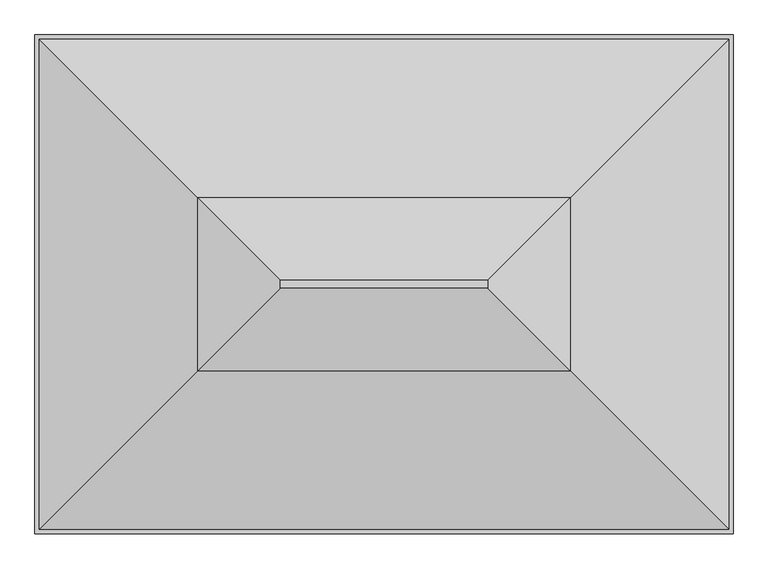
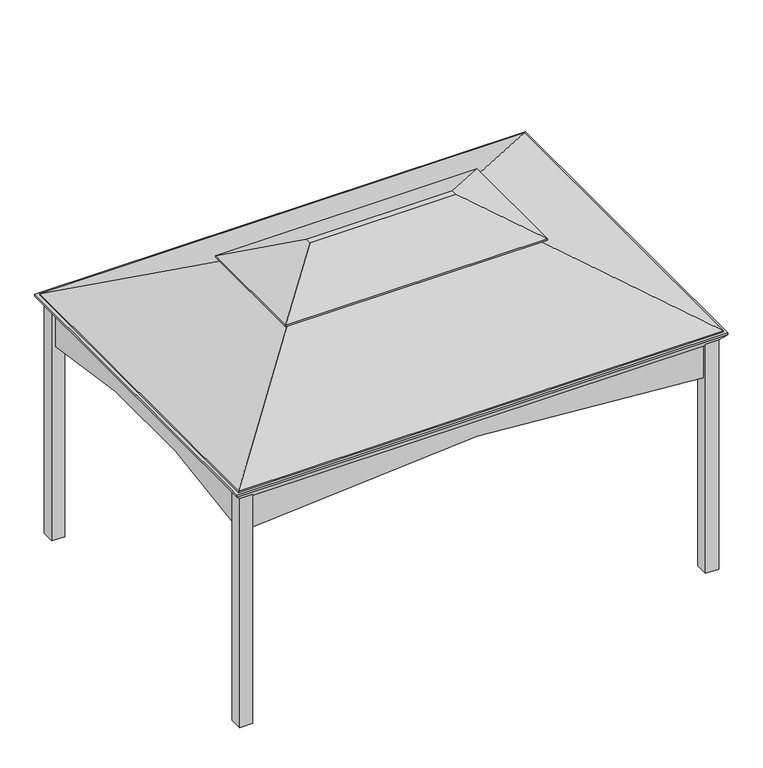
"""IFC4 building model written with IfcOpenShell, lengths in millimetres: proxy geometry."""

from ifc_helpers import new_model, si_unit, point, frame, frame_2d, origin, place, context, project, spatial, polyline, circle_curve, trimmed, segment, composite_curve, outline, extrude, faceted_brep, source, transform, mapped, element, save


def generic_models_7251365c(model_context):
    return source(origin(), model_context, "Body", "SolidModel", [
        extrude(outline(composite_curve([segment(polyline([(2082.8, -1968.5), (1778.0, -1968.5)]), True, "CONTINUOUS"), segment(trimmed(circle_curve(frame_2d((-10859.0291667, 0.0)), 12789.4291667), [point((1778.0, -1968.5))], [point((1778.0, 1968.5))], True, "CARTESIAN"), True, "CONTINUOUS"), segment(polyline([(1778.0, 1968.5), (2082.8, 1968.5), (2082.8, -1968.5)]), True, "CONTINUOUS")], self_intersect=False)), frame((0.0, -1441.45, 0.0), z_axis=(0.0, 1.0, 0.0), x_axis=(0.0, 0.0, 1.0)), (0.0, 0.0, 1.0), 25.4),
        extrude(outline(composite_curve([segment(polyline([(2082.8, -1968.5), (1778.0, -1968.5)]), True, "CONTINUOUS"), segment(trimmed(circle_curve(frame_2d((-10859.0291667, 0.0)), 12789.4291667), [point((1778.0, -1968.5))], [point((1778.0, 1968.5))], True, "CARTESIAN"), True, "CONTINUOUS"), segment(polyline([(1778.0, 1968.5), (2082.8, 1968.5), (2082.8, -1968.5)]), True, "CONTINUOUS")], self_intersect=False)), frame((0.0, 1416.05, 0.0), z_axis=(0.0, 1.0, 0.0), x_axis=(0.0, 0.0, 1.0)), (0.0, 0.0, 1.0), 25.4),
        extrude(outline(composite_curve([segment(polyline([(1358.9, 2082.8), (1358.9, 1778.0)]), True, "CONTINUOUS"), segment(trimmed(circle_curve(frame_2d((0.0, -4204.2291667)), 6134.6291667), [point((1358.9, 1778.0))], [point((-1358.9, 1778.0))], True, "CARTESIAN"), True, "CONTINUOUS"), segment(polyline([(-1358.9, 1778.0), (-1358.9, 2082.8), (1358.9, 2082.8)]), True, "CONTINUOUS")], self_intersect=False)), frame((2025.65, 0.0, 0.0), z_axis=(1.0, 0.0, 0.0), x_axis=(0.0, 1.0, 0.0)), (0.0, 0.0, 1.0), 25.4),
        extrude(outline(composite_curve([segment(polyline([(1358.9, 2082.8), (1358.9, 1778.0)]), True, "CONTINUOUS"), segment(trimmed(circle_curve(frame_2d((0.0, -4204.2291667)), 6134.6291667), [point((1358.9, 1778.0))], [point((-1358.9, 1778.0))], True, "CARTESIAN"), True, "CONTINUOUS"), segment(polyline([(-1358.9, 1778.0), (-1358.9, 2082.8), (1358.9, 2082.8)]), True, "CONTINUOUS")], self_intersect=False)), frame((-2051.05, 0.0, 0.0), z_axis=(1.0, 0.0, 0.0), x_axis=(0.0, 1.0, 0.0)), (0.0, 0.0, 1.0), 25.4),
        faceted_brep([(2133.6, -1524.0, 2184.4), (2133.6, 1524.0, 2184.4), (-2133.6, 1524.0, 2184.4), (-2133.6, -1524.0, 2184.4), (1968.5, 1358.9, 2184.4), (2025.65, 1358.9, 2184.4), (2025.65, -1358.9, 2184.4), (1968.5, -1358.9, 2184.4), (1968.5, -1416.05, 2184.4), (-1968.5, -1416.05, 2184.4), (-1968.5, -1358.9, 2184.4), (-2025.65, -1358.9, 2184.4), (-2025.65, 1358.9, 2184.4), (-1968.5, 1358.9, 2184.4), (-1968.5, 1416.05, 2184.4), (1968.5, 1416.05, 2184.4), (1968.5, 1358.9, 0.0), (1968.5, 1473.2, 0.0), (2082.8, 1473.2, 0.0), (2082.8, 1358.9, 0.0), (2082.8, 1358.9, 2105.3136364), (2063.75, 1358.9, 2082.8), (2025.65, 1358.9, 2082.8), (2082.8, 1473.2, 2105.3136364), (1968.5, 1473.2, 2105.3136364), (1968.5, 1416.05, 2082.8), (1968.5, 1454.15, 2082.8), (2063.75, -1358.9, 2082.8), (2025.65, -1358.9, 2082.8), (-1968.5, 1416.05, 2082.8), (-1968.5, 1454.15, 2082.8), (1968.5, -1416.05, 2082.8), (1968.5, -1454.15, 2082.8), (-1968.5, -1454.15, 2082.8), (-1968.5, -1416.05, 2082.8), (-2025.65, -1358.9, 2082.8), (-2063.75, -1358.9, 2082.8), (-2063.75, 1358.9, 2082.8), (-2025.65, 1358.9, 2082.8), (2133.6, 1524.0, 2165.35), (2133.6, -1524.0, 2165.35), (-2133.6, -1524.0, 2165.35), (-2133.6, 1524.0, 2165.35), (2082.8, -1358.9, 0.0), (2082.8, -1473.2, 0.0), (1968.5, -1473.2, 0.0), (1968.5, -1358.9, 0.0), (2082.8, -1358.9, 2105.3136364), (1968.5, -1473.2, 2105.3136364), (2082.8, -1473.2, 2105.3136364), (-1968.5, -1358.9, 0.0), (-1968.5, -1473.2, 0.0), (-2082.8, -1473.2, 0.0), (-2082.8, -1358.9, 0.0), (-2082.8, -1358.9, 2105.3136364), (-2082.8, -1473.2, 2105.3136364), (-1968.5, -1473.2, 2105.3136364), (-2082.8, 1358.9, 0.0), (-2082.8, 1473.2, 0.0), (-1968.5, 1473.2, 0.0), (-1968.5, 1358.9, 0.0), (-2082.8, 1358.9, 2105.3136364), (-1968.5, 1473.2, 2105.3136364), (-2082.8, 1473.2, 2105.3136364)], [[[0, 1, 2, 3], [4, 5, 6, 7, 8, 9, 10, 11, 12, 13, 14, 15]], [[16, 17, 18, 19]], [[16, 19, 20, 21, 22, 5, 4]], [[19, 18, 23, 20]], [[18, 17, 24, 23]], [[17, 16, 4, 15, 25, 26, 24]], [[22, 21, 27, 28]], [[26, 25, 29, 30]], [[31, 32, 33, 34]], [[35, 36, 37, 38]], [[25, 15, 14, 29]], [[39, 1, 0, 40]], [[40, 0, 3, 41]], [[41, 3, 2, 42]], [[1, 39, 42, 2]], [[43, 44, 45, 46]], [[43, 46, 7, 6, 28, 27, 47]], [[46, 45, 48, 32, 31, 8, 7]], [[45, 44, 49, 48]], [[44, 43, 47, 49]], [[50, 51, 52, 53]], [[50, 53, 54, 36, 35, 11, 10]], [[53, 52, 55, 54]], [[52, 51, 56, 55]], [[51, 50, 10, 9, 34, 33, 56]], [[57, 58, 59, 60]], [[57, 60, 13, 12, 38, 37, 61]], [[60, 59, 62, 30, 29, 14, 13]], [[59, 58, 63, 62]], [[58, 57, 61, 63]], [[5, 22, 28, 6]], [[8, 31, 34, 9]], [[11, 35, 38, 12]], [[39, 40, 49, 47, 27, 21, 20, 23]], [[40, 41, 55, 56, 33, 32, 48, 49]], [[41, 42, 63, 61, 37, 36, 54, 55]], [[42, 39, 23, 24, 26, 30, 62, 63]]]),
        faceted_brep([(634.9941406, 25.3941406, 3073.4), (-634.9941406, 25.3941406, 3073.4), (-634.9941406, -25.3941406, 3073.4), (634.9941406, -25.3941406, 3073.4), (-1137.9141406, 528.3141406, 2794.0), (-1137.9141406, -528.3141406, 2794.0), (1137.9141406, -528.3141406, 2794.0), (1137.9141406, 528.3141406, 2794.0), (1137.9141406, 528.3141406, 2781.3), (1137.9141406, -528.3141406, 2781.3), (-1137.9141406, -528.3141406, 2781.3), (-1137.9141406, 528.3141406, 2781.3), (634.9941406, 25.3941406, 3060.7), (634.9941406, -25.3941406, 3060.7), (-634.9941406, -25.3941406, 3060.7), (-634.9941406, 25.3941406, 3060.7)], [[[0, 1, 2, 3]], [[2, 1, 4, 5]], [[0, 3, 6, 7]], [[8, 7, 6, 9]], [[9, 6, 5, 10]], [[10, 5, 4, 11]], [[7, 8, 11, 4]], [[12, 13, 14, 15]], [[15, 14, 10, 11]], [[13, 12, 8, 9]], [[1, 0, 7, 4]], [[3, 2, 5, 6]], [[12, 15, 11, 8]], [[14, 13, 9, 10]]]),
        faceted_brep([(-2108.1941406, 1498.5941406, 2197.1), (-1010.9141406, 401.3141406, 2806.7), (1010.9141406, 401.3141406, 2806.7), (2108.1941406, 1498.5941406, 2197.1), (-2108.1941406, -1498.5941406, 2197.1), (-1010.9141406, -401.3141406, 2806.7), (2108.1941406, -1498.5941406, 2197.1), (1010.9141406, -401.3141406, 2806.7), (2108.1941406, 1498.5941406, 2184.4), (2108.1941406, -1498.5941406, 2184.4), (-2108.1941406, -1498.5941406, 2184.4), (-2108.1941406, 1498.5941406, 2184.4), (1010.9141406, 401.3141406, 2794.0), (-1010.9141406, 401.3141406, 2794.0), (-1010.9141406, -401.3141406, 2794.0), (1010.9141406, -401.3141406, 2794.0)], [[[0, 1, 2, 3]], [[1, 0, 4, 5]], [[5, 4, 6, 7]], [[3, 2, 7, 6]], [[8, 3, 6, 9]], [[9, 6, 4, 10]], [[10, 4, 0, 11]], [[3, 8, 11, 0]], [[8, 12, 13, 11]], [[11, 13, 14, 10]], [[10, 14, 15, 9]], [[12, 8, 9, 15]], [[7, 2, 12, 15]], [[5, 7, 15, 14]], [[1, 5, 14, 13]], [[2, 1, 13, 12]]]),
    ])


if __name__ == "__main__":
    model = new_model("IFC4")
    model_context = context("Model", 3, world=origin())
    ifc_project = project(units=[si_unit("LENGTHUNIT", "METRE", prefix="MILLI")], contexts=[model_context])
    site = spatial("IfcSite", under=ifc_project)
    building = spatial("IfcBuilding", under=site)
    placement = place(None, origin())
    generic_models_shape = generic_models_7251365c(model_context)
    element("IfcBuildingElementProxy", 1, Name="Gazebo : 14'-0\" x 10'-0\" (Arches)", ObjectType="Gazebo : 14'-0\" x 10'-0\" (Arches)", at=placement, inside=building, context=model_context, shape_type="MappedRepresentation", body=[
        mapped(generic_models_shape, transform((0.0, 0.0, 0.0), x_axis=(1.0, 0.0, 0.0), y_axis=(0.0, 1.0, 0.0), z_axis=(0.0, 0.0, 1.0))),
    ])
    save(model, "model.ifc")
